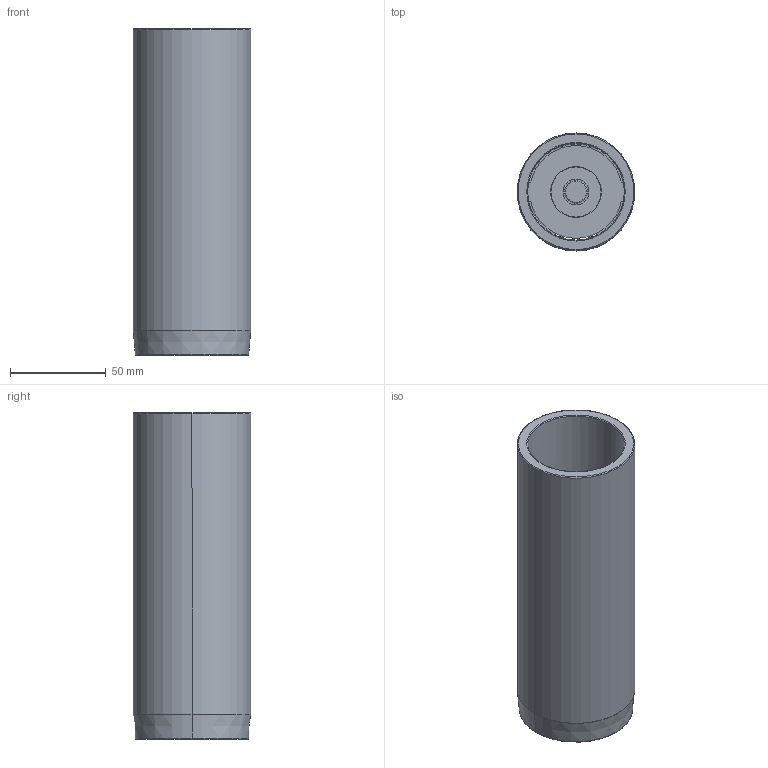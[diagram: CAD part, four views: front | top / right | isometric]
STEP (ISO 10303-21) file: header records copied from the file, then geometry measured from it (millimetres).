
FILE_DESCRIPTION((''),'2;1');
FILE_NAME('C12_050_170.stp','2009-01-28T14:18:09',(''),(''),'Mechanical Desktop 2009','Mechanical Desktop 2009',', , ');
FILE_SCHEMA(('CONFIG_CONTROL_DESIGN'));
Length unit declared in the file: millimetre
Products named in the file (2): Product; blmdl1
Assembly tree (1 placements, depth 2):
  Product
    blmdl1
Bounding box: 61.25 x 61.25 x 170 mm (x, y, z)
Volume: 167191.5 mm3; surface area: 71436.8 mm2
Topology: 5 solids, 5 shells, 79 faces, 200 edges, 134 vertices
Faces by surface type: cylinder 34, plane 29, torus 10, cone 6
Entity records: 2585 total; most frequent: DIRECTION 480, CARTESIAN_POINT 435, ORIENTED_EDGE 400, AXIS2_PLACEMENT_3D 203, EDGE_CURVE 200, VERTEX_POINT 134, CIRCLE 122, EDGE_LOOP 92
